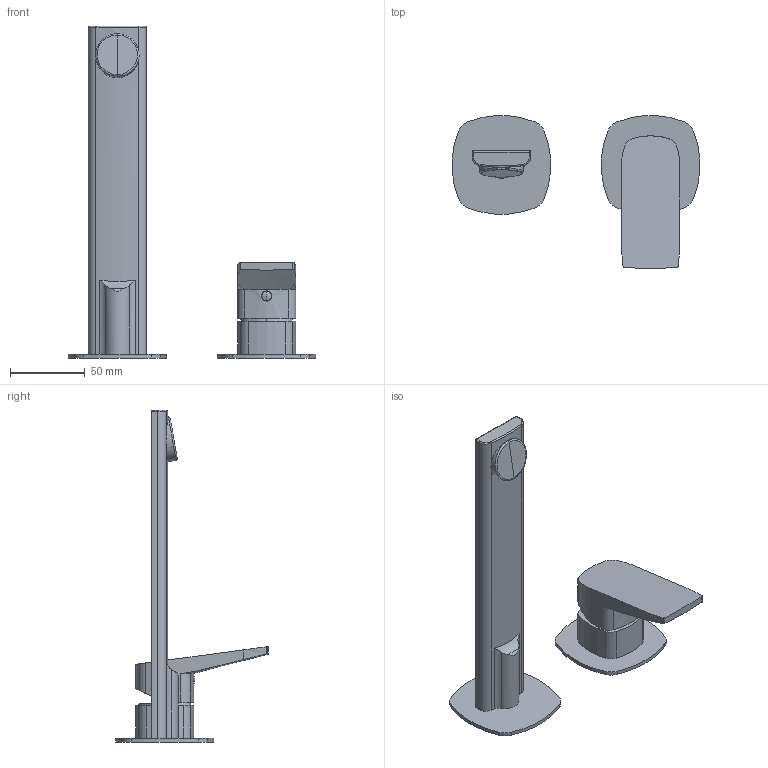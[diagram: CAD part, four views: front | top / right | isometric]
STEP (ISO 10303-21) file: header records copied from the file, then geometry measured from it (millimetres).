
FILE_DESCRIPTION(('FreeCAD Model'),'2;1');
FILE_NAME('Open CASCADE Shape Model','2024-11-19T14:00:20',('Author'),( ''),'Open CASCADE STEP processor 7.6','FreeCAD','Unknown');
FILE_SCHEMA(('AUTOMOTIVE_DESIGN { 1 0 10303 214 1 1 1 1 }'));
Length unit declared in the file: millimetre
Products named in the file (7): TopLevelAssembly; Połączona geometria bryłowa; Wyciąganie001; Obrót profilu; Wyciąganie002; Połączona geometria bryłowa001; Połączona geometria bryłowa002
Assembly tree (6 placements, depth 2):
  TopLevelAssembly
    Połączona geometria bryłowa
    Wyciąganie001
    Obrót profilu
    Wyciąganie002
    Połączona geometria bryłowa001
    Połączona geometria bryłowa002
Bounding box: 165.93 x 102.38 x 222.5 mm (x, y, z)
Volume: 201023.7 mm3; surface area: 57186 mm2
Topology: 6 solids, 6 shells, 92 faces, 218 edges, 136 vertices
Faces by surface type: cylinder 55, plane 25, bspline 12
Entity records: 3059 total; most frequent: CARTESIAN_POINT 791, DIRECTION 471, ORIENTED_EDGE 428, EDGE_CURVE 214, AXIS2_PLACEMENT_3D 196, VERTEX_POINT 136, FACE_BOUND 94, EDGE_LOOP 94
